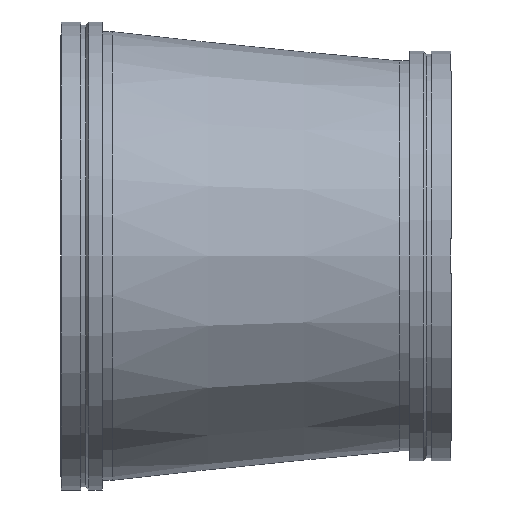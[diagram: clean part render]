
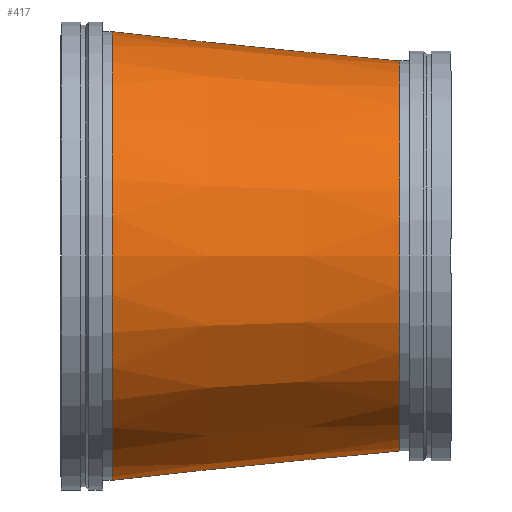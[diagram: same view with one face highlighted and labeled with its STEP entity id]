
A CAD part, front view. The second image highlights one B-rep face of the part: STEP entity #417.
In plain terms, the highlighted conical face has half-angle 5.807 degrees and reference radius 546.1 mm.
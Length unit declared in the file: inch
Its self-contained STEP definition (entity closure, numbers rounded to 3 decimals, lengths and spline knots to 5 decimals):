
#46=CONICAL_SURFACE('',#475,21.5,0.101);
#54=LINE('',#739,#68);
#68=VECTOR('',#587,21.5);
#101=FACE_OUTER_BOUND('',#124,.T.);
#124=EDGE_LOOP('',(#315,#316,#317,#318,#319,#320));
#155=CIRCLE('',#473,23.);
#156=CIRCLE('',#474,23.);
#157=CIRCLE('',#476,20.);
#158=CIRCLE('',#477,20.);
#195=VERTEX_POINT('',#729);
#196=VERTEX_POINT('',#730);
#197=VERTEX_POINT('',#735);
#198=VERTEX_POINT('',#736);
#239=EDGE_CURVE('',#195,#196,#155,.T.);
#240=EDGE_CURVE('',#196,#195,#156,.T.);
#242=EDGE_CURVE('',#197,#198,#157,.T.);
#243=EDGE_CURVE('',#198,#197,#158,.T.);
#244=EDGE_CURVE('',#198,#196,#54,.T.);
#315=ORIENTED_EDGE('',*,*,#242,.F.);
#316=ORIENTED_EDGE('',*,*,#243,.F.);
#317=ORIENTED_EDGE('',*,*,#244,.T.);
#318=ORIENTED_EDGE('',*,*,#240,.T.);
#319=ORIENTED_EDGE('',*,*,#239,.T.);
#320=ORIENTED_EDGE('',*,*,#244,.F.);
#417=ADVANCED_FACE('',(#101),#46,.T.);
#473=AXIS2_PLACEMENT_3D('',#731,#576,#577);
#474=AXIS2_PLACEMENT_3D('',#732,#578,#579);
#475=AXIS2_PLACEMENT_3D('',#734,#581,#582);
#476=AXIS2_PLACEMENT_3D('',#737,#583,#584);
#477=AXIS2_PLACEMENT_3D('',#738,#585,#586);
#576=DIRECTION('center_axis',(1.,0.,0.));
#577=DIRECTION('ref_axis',(0.,0.,-1.));
#578=DIRECTION('center_axis',(1.,0.,0.));
#579=DIRECTION('ref_axis',(0.,0.,-1.));
#581=DIRECTION('center_axis',(-1.,0.,0.));
#582=DIRECTION('ref_axis',(0.,1.,0.));
#583=DIRECTION('center_axis',(1.,0.,0.));
#584=DIRECTION('ref_axis',(0.,0.,-1.));
#585=DIRECTION('center_axis',(1.,0.,0.));
#586=DIRECTION('ref_axis',(0.,0.,-1.));
#587=DIRECTION('',(-0.995,-0.101,0.));
#729=CARTESIAN_POINT('',(5.25,23.,0.));
#730=CARTESIAN_POINT('',(5.25,-23.,0.));
#731=CARTESIAN_POINT('Origin',(5.25,0.,0.));
#732=CARTESIAN_POINT('Origin',(5.25,0.,0.));
#734=CARTESIAN_POINT('Origin',(20.,0.,0.));
#735=CARTESIAN_POINT('',(34.75,20.,0.));
#736=CARTESIAN_POINT('',(34.75,-20.,0.));
#737=CARTESIAN_POINT('Origin',(34.75,0.,0.));
#738=CARTESIAN_POINT('Origin',(34.75,0.,0.));
#739=CARTESIAN_POINT('',(20.,-21.5,0.));
